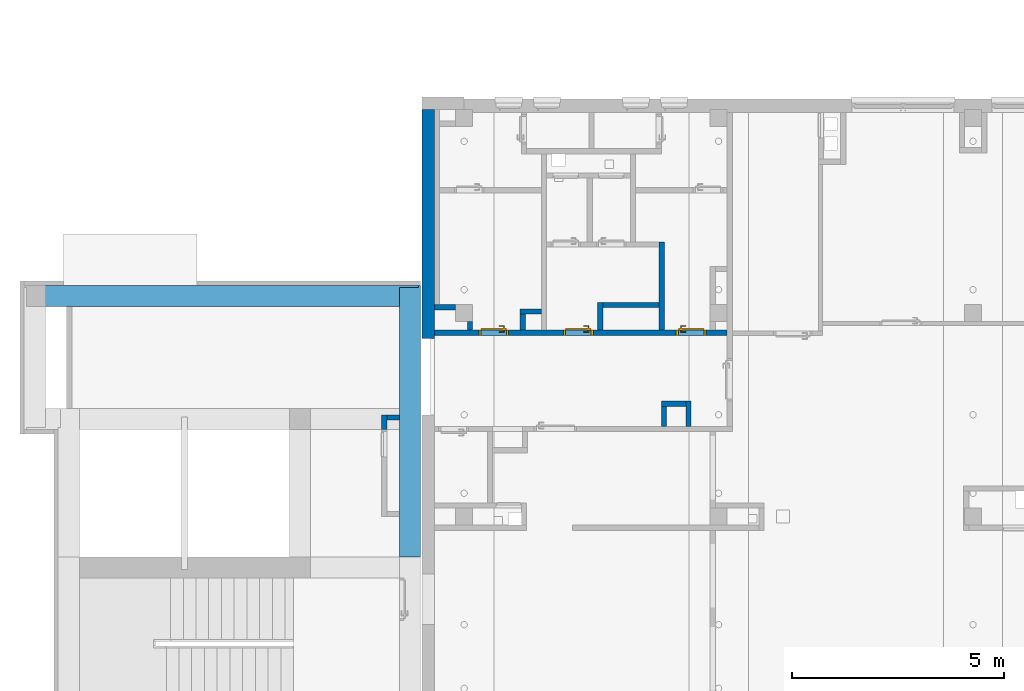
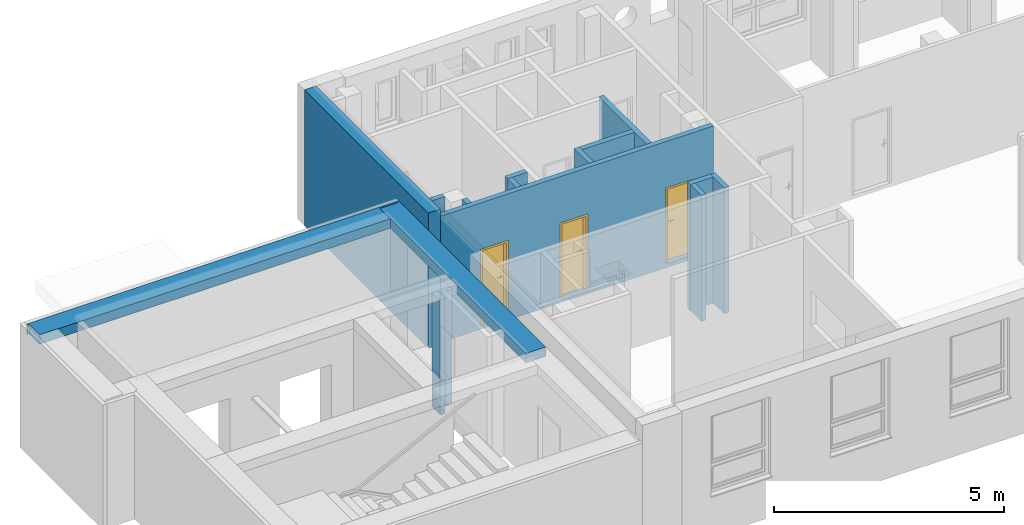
# One storey, part 9 of 50: 16 walls, 3 doors, 3 openings.
"""IFC4 building model written with IfcOpenShell, lengths in metres."""

from ifc_helpers import new_model, entity, si_unit, converted_unit, derived_unit, frame, frame_2d, origin, origin_with_axes, place, context, subcontext, project, spatial, polyline, rectangle, outline, extrude, closed_shell, open_shell, surface_model, source, transform, mapped, material, layer, layer_set, layer_usage, type_object, element, fill, save


model = new_model("IFC4")

# Units and contexts
model_context = context("Model", 3, precision=1e-05, world=origin())
body_context = subcontext(model_context, "Body", "Model", "MODEL_VIEW")
ifc_project = project(units=[si_unit("LENGTHUNIT", "METRE"), si_unit("AREAUNIT", "SQUARE_METRE"), si_unit("VOLUMEUNIT", "CUBIC_METRE"), si_unit("MASSUNIT", "GRAM", prefix="KILO"), converted_unit("PLANEANGLEUNIT", "DEGREE", entity("IfcPlaneAngleMeasure", 0.0174532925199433), si_unit("PLANEANGLEUNIT", "RADIAN"), dimensions=[0, 0, 0, 0, 0, 0, 0]), derived_unit("THERMALTRANSMITTANCEUNIT", [(si_unit("POWERUNIT", "WATT"), 1), (si_unit("THERMODYNAMICTEMPERATUREUNIT", "KELVIN"), -1), (si_unit("LENGTHUNIT", "METRE"), -2)]), derived_unit("VOLUMETRICFLOWRATEUNIT", [(si_unit("LENGTHUNIT", "METRE"), 3), (converted_unit("TIMEUNIT", "hour", entity("IfcTimeMeasure", 3600.0), si_unit("TIMEUNIT", "SECOND"), dimensions=[0, 0, 1, 0, 0, 0, 0]), -1), (si_unit("LENGTHUNIT", "METRE"), -1)])], contexts=[model_context])

# Site, building, storey
site_placement = place(None, origin())
site = spatial("IfcSite", under=ifc_project, at=site_placement, Name="3. ASŘ", CompositionType="ELEMENT")
building_placement = place(site_placement, origin())
building = spatial("IfcBuilding", under=site, at=building_placement, Name="Pavilon C", CompositionType="ELEMENT")
storey_placement = place(building_placement, frame((0.0, 0.0, 3.6)))
storey = spatial("IfcBuildingStorey", under=building, at=storey_placement, Name="Půdorys 2.NP", CompositionType="ELEMENT", Elevation=3.6)

# Walls
ifc_material_1 = material(Name="ZELEZOBETONOVÁ KCE")
ifc_layer_1 = layer(ifc_material_1, 0.3)
ifc_layer_set_1 = layer_set([ifc_layer_1])
ifc_layer_usage_1 = layer_usage(ifc_layer_set_1, "AXIS2", "POSITIVE", 0.0)
wall_1_placement = place(storey_placement, frame((-0.999999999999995, 15.0, -0.1), z_axis=(0.0, 0.0, 1.0), x_axis=(-1.8947806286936e-16, -1.0, 0.0)))
element("IfcWall", 1, at=wall_1_placement, inside=storey, material=ifc_layer_usage_1, Name="ZELEZOBETONOVÁ KCE", context=body_context, shape_type="SweptSolid", body=[
    extrude(rectangle(XDim=5.40000000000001, YDim=0.3, at=frame_2d((2.7, 0.15), x_axis=(1.0, 0.0))), origin_with_axes(), (0.0, 0.0, 1.0), 3.6),
])
ifc_material_2 = material(Name="ZDIVO Z CDm")
ifc_layer_2 = layer(ifc_material_2, 0.125)
ifc_layer_set_2 = layer_set([ifc_layer_2])
ifc_layer_usage_2 = layer_usage(ifc_layer_set_2, "AXIS2", "POSITIVE", 0.0)
wall_2_placement = place(storey_placement, frame((-0.199999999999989, 10.4, -0.1), z_axis=(0.0, 0.0, 1.0), x_axis=(-1.0, 0.0, 0.0)))
element("IfcWall", 2, at=wall_2_placement, inside=storey, material=ifc_layer_usage_2, Name="ZDIVO Z CDm", context=body_context, shape_type="SweptSolid", body=[
    extrude(rectangle(XDim=0.500000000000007, YDim=0.125, at=frame_2d((0.250000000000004, 0.0625), x_axis=(1.0, 0.0))), origin_with_axes(), (0.0, 0.0, 1.0), 3.35),
])

# Wall, openings, doors
ifc_material_3 = material(Name="ZDIVO Z CDm")
ifc_layer_3 = layer(ifc_material_3, 0.125)
ifc_layer_set_3 = layer_set([ifc_layer_3])
ifc_layer_usage_3 = layer_usage(ifc_layer_set_3, "AXIS2", "POSITIVE", 0.0)
wall_3_placement = place(storey_placement, frame((6.20000000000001, 9.8, -0.1), z_axis=(0.0, 0.0, 1.0), x_axis=(-1.0, 0.0, 0.0)))
wall_3 = element("IfcWall", 3, at=wall_3_placement, inside=storey, material=ifc_layer_usage_3, Name="ZDIVO Z CDm", context=body_context, shape_type="SweptSolid", body=[
    extrude(rectangle(XDim=6.90000000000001, YDim=0.125, at=frame_2d((3.45, 0.0625), x_axis=(1.0, 0.0))), origin_with_axes(), (0.0, 0.0, 1.0), 3.35),
])
opening_1_placement = place(wall_3_placement, frame((3.15500000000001, 0.0, 0.1), z_axis=(0.0, 1.0, 0.0), x_axis=(0.0, 0.0, 1.0)))
opening_1 = element("IfcOpeningElement", 4, at=opening_1_placement, cuts=wall_3, Name="Dveřní otvor", ObjectType="Opening", context=body_context, shape_type="SweptSolid", body=[
    extrude(outline(polyline([(0.0, 0.7), (2.02, 0.7), (2.02, 0.0), (0.0, 0.0), (0.0, 0.7)])), origin_with_axes(), (0.0, 0.0, 1.0), 0.125),
])
opening_2_placement = place(wall_3_placement, frame((0.499999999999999, 0.0, 0.1), z_axis=(0.0, 1.0, 0.0), x_axis=(0.0, 0.0, 1.0)))
opening_2 = element("IfcOpeningElement", 5, at=opening_2_placement, cuts=wall_3, Name="Dveřní otvor", ObjectType="Opening", context=body_context, shape_type="SweptSolid", body=[
    extrude(outline(polyline([(0.0, 0.7), (2.02, 0.7), (2.02, 0.0), (0.0, 0.0), (0.0, 0.7)])), origin_with_axes(), (0.0, 0.0, 1.0), 0.125),
])
opening_3_placement = place(wall_3_placement, frame((5.15000000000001, 0.0, 0.1), z_axis=(0.0, 1.0, 0.0), x_axis=(0.0, 0.0, 1.0)))
opening_3 = element("IfcOpeningElement", 6, at=opening_3_placement, cuts=wall_3, Name="Dveřní otvor", ObjectType="Opening", context=body_context, shape_type="SweptSolid", body=[
    extrude(outline(polyline([(0.0, 0.7), (2.02, 0.7), (2.02, 0.0), (0.0, 0.0), (0.0, 0.7)])), origin_with_axes(), (0.0, 0.0, 1.0), 0.125),
])
door_type_1 = type_object("IfcDoorType", Name="D101", OperationType="NOTDEFINED", ParameterTakesPrecedence=False, PredefinedType="DOOR")
shared_shape_1 = source(origin_with_axes(), body_context, "Body", "SurfaceModel", [
    surface_model("IfcShellBasedSurfaceModel", [(0.0, 0.125, 2.02), (0.0, 0.125, -7.65404249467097e-18), (0.05, 0.125, -7.65404249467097e-18), (0.05, 0.125, 2.02), (0.0, 0.0, 7.65404249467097e-18), (0.0, 2.41584530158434e-16, 2.02), (0.05, 2.41584530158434e-16, 2.02), (0.05, 0.0, 7.65404249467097e-18)], [closed_shell([[[0, 1, 2, 3]], [[4, 5, 6, 7]], [[1, 0, 5, 4]], [[2, 1, 4, 7]], [[3, 2, 7, 6]], [[0, 3, 6, 5]]], orient=[[False], [False], [False], [False], [False], [False]])]),
    surface_model("IfcShellBasedSurfaceModel", [(0.65, 0.125, 2.02), (0.65, 0.125, -7.65404249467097e-18), (0.7, 0.125, -7.65404249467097e-18), (0.7, 0.125, 2.02), (0.65, 0.0, 7.65404249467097e-18), (0.65, 2.41584530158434e-16, 2.02), (0.7, 2.41584530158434e-16, 2.02), (0.7, 0.0, 7.65404249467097e-18)], [closed_shell([[[0, 1, 2, 3]], [[4, 5, 6, 7]], [[1, 0, 5, 4]], [[2, 1, 4, 7]], [[3, 2, 7, 6]], [[0, 3, 6, 5]]], orient=[[False], [False], [False], [False], [False], [False]])]),
    surface_model("IfcShellBasedSurfaceModel", [(0.05, 0.125, 2.02), (0.05, 0.125, 1.97), (0.65, 0.125, 1.97), (0.65, 0.125, 2.02), (0.05, 2.41584530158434e-16, 1.97), (0.05, 2.41584530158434e-16, 2.02), (0.65, 2.41584530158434e-16, 2.02), (0.65, 2.41584530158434e-16, 1.97)], [closed_shell([[[0, 1, 2, 3]], [[4, 5, 6, 7]], [[1, 0, 5, 4]], [[2, 1, 4, 7]], [[3, 2, 7, 6]], [[0, 3, 6, 5]]], orient=[[False], [False], [False], [False], [False], [False]])]),
    surface_model("IfcShellBasedSurfaceModel", [(0.05, 0.165, 1.97), (0.05, 0.165, -1.25526296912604e-17), (0.65, 0.165, -1.25526296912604e-17), (0.65, 0.165, 1.97), (0.05, 0.125, -7.65404249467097e-18), (0.05, 0.125, 1.97), (0.65, 0.125, 1.97), (0.65, 0.125, -7.65404249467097e-18)], [closed_shell([[[0, 1, 2, 3]], [[4, 5, 6, 7]], [[1, 0, 5, 4]], [[2, 1, 4, 7]], [[3, 2, 7, 6]], [[0, 3, 6, 5]]], orient=[[False], [False], [False], [False], [False], [False]])]),
    surface_model("IfcShellBasedSurfaceModel", [(0.56, 0.125, 1.125), (0.56, 0.125, 0.91), (0.61, 0.125, 0.91), (0.61, 0.125, 1.125), (0.56, 0.115, 0.91), (0.56, 0.115, 1.125), (0.61, 0.115, 1.125), (0.61, 0.115, 0.91)], [closed_shell([[[0, 1, 2, 3]], [[4, 5, 6, 7]], [[1, 0, 5, 4]], [[2, 1, 4, 7]], [[3, 2, 7, 6]], [[0, 3, 6, 5]]], orient=[[False], [False], [False], [False], [False], [False]])]),
    surface_model("IfcShellBasedSurfaceModel", [(0.585, 0.115, 1.06), (0.58, 0.115, 1.05866025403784), (0.576339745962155, 0.115, 1.055), (0.575, 0.115, 1.05), (0.576339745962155, 0.115, 1.045), (0.58, 0.115, 1.04133974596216), (0.585, 0.115, 1.04), (0.59, 0.115, 1.04133974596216), (0.593660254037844, 0.115, 1.045), (0.595, 0.115, 1.05), (0.593660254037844, 0.115, 1.055), (0.59, 0.115, 1.05866025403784), (0.59, 0.0700000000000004, 1.05866025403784), (0.585, 0.0750000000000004, 1.06), (0.593660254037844, 0.066339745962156, 1.055), (0.595, 0.0650000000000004, 1.05), (0.593660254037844, 0.066339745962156, 1.045), (0.59, 0.0700000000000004, 1.04133974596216), (0.585, 0.0750000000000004, 1.04), (0.58, 0.0800000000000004, 1.04133974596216), (0.576339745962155, 0.0836602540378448, 1.045), (0.575, 0.0850000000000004, 1.05), (0.576339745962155, 0.0836602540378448, 1.055), (0.58, 0.0800000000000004, 1.05866025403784), (0.47, 0.0700000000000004, 1.05866025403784), (0.47, 0.0750000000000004, 1.06), (0.47, 0.066339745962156, 1.055), (0.47, 0.0650000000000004, 1.05), (0.47, 0.066339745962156, 1.045), (0.47, 0.0700000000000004, 1.04133974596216), (0.47, 0.0750000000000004, 1.04), (0.47, 0.0800000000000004, 1.04133974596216), (0.47, 0.0836602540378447, 1.045), (0.47, 0.0850000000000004, 1.05), (0.47, 0.0836602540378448, 1.055), (0.47, 0.0800000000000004, 1.05866025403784)], [open_shell([[[0, 1, 2, 3, 4, 5, 6, 7, 8, 9, 10, 11]], [[0, 11, 12, 13]], [[11, 10, 14, 12]], [[10, 9, 15, 14]], [[9, 8, 16, 15]], [[8, 7, 17, 16]], [[7, 6, 18, 17]], [[6, 5, 19, 18]], [[5, 4, 20, 19]], [[4, 3, 21, 20]], [[3, 2, 22, 21]], [[2, 1, 23, 22]], [[1, 0, 13, 23]], [[13, 12, 24, 25]], [[12, 14, 26, 24]], [[14, 15, 27, 26]], [[15, 16, 28, 27]], [[16, 17, 29, 28]], [[17, 18, 30, 29]], [[18, 19, 31, 30]], [[19, 20, 32, 31]], [[20, 21, 33, 32]], [[21, 22, 34, 33]], [[22, 23, 35, 34]], [[23, 13, 25, 35]]], orient=[[False], [False], [False], [False], [False], [False], [False], [False], [False], [False], [False], [False], [False], [False], [False], [False], [False], [False], [False], [False], [False], [False], [False], [False], [False]])]),
    surface_model("IfcShellBasedSurfaceModel", [(0.56, 0.165, 1.125), (0.61, 0.165, 1.125), (0.61, 0.165, 0.91), (0.56, 0.165, 0.91), (0.56, 0.175, 0.91), (0.61, 0.175, 0.91), (0.61, 0.175, 1.125), (0.56, 0.175, 1.125)], [closed_shell([[[0, 1, 2, 3]], [[4, 5, 6, 7]], [[3, 4, 7, 0]], [[2, 5, 4, 3]], [[1, 6, 5, 2]], [[0, 7, 6, 1]]], orient=[[False], [False], [False], [False], [False], [False]])]),
    surface_model("IfcShellBasedSurfaceModel", [(0.585, 0.175, 1.06), (0.59, 0.175, 1.05866025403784), (0.593660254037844, 0.175, 1.055), (0.595, 0.175, 1.05), (0.593660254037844, 0.175, 1.045), (0.59, 0.175, 1.04133974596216), (0.585, 0.175, 1.04), (0.58, 0.175, 1.04133974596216), (0.576339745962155, 0.175, 1.045), (0.575, 0.175, 1.05), (0.576339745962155, 0.175, 1.055), (0.58, 0.175, 1.05866025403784), (0.585, 0.215, 1.06), (0.59, 0.22, 1.05866025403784), (0.593660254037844, 0.223660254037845, 1.055), (0.595, 0.225, 1.05), (0.593660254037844, 0.223660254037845, 1.045), (0.59, 0.22, 1.04133974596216), (0.585, 0.215, 1.04), (0.58, 0.21, 1.04133974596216), (0.576339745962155, 0.206339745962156, 1.045), (0.575, 0.205, 1.05), (0.576339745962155, 0.206339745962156, 1.055), (0.58, 0.21, 1.05866025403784), (0.47, 0.215, 1.06), (0.47, 0.22, 1.05866025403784), (0.47, 0.223660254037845, 1.055), (0.47, 0.225, 1.05), (0.47, 0.223660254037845, 1.045), (0.47, 0.22, 1.04133974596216), (0.47, 0.215, 1.04), (0.47, 0.21, 1.04133974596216), (0.47, 0.206339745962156, 1.045), (0.47, 0.205, 1.05), (0.47, 0.206339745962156, 1.055), (0.47, 0.21, 1.05866025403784)], [open_shell([[[0, 1, 2, 3, 4, 5, 6, 7, 8, 9, 10, 11]], [[0, 12, 13, 1]], [[1, 13, 14, 2]], [[2, 14, 15, 3]], [[3, 15, 16, 4]], [[4, 16, 17, 5]], [[5, 17, 18, 6]], [[6, 18, 19, 7]], [[7, 19, 20, 8]], [[8, 20, 21, 9]], [[9, 21, 22, 10]], [[10, 22, 23, 11]], [[11, 23, 12, 0]], [[12, 24, 25, 13]], [[13, 25, 26, 14]], [[14, 26, 27, 15]], [[15, 27, 28, 16]], [[16, 28, 29, 17]], [[17, 29, 30, 18]], [[18, 30, 31, 19]], [[19, 31, 32, 20]], [[20, 32, 33, 21]], [[21, 33, 34, 22]], [[22, 34, 35, 23]], [[23, 35, 24, 12]]], orient=[[False], [False], [False], [False], [False], [False], [False], [False], [False], [False], [False], [False], [False], [False], [False], [False], [False], [False], [False], [False], [False], [False], [False], [False], [False]])]),
])
door_1_placement = place(opening_1_placement, frame((0.0, 0.7, 0.125), z_axis=(1.0, 0.0, 0.0), x_axis=(0.0, -1.0, 2.44929359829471e-16)))
door_1 = element("IfcDoor", 7, at=door_1_placement, inside=storey, type_object=door_type_1, Name="D101", OverallHeight=2.02, OverallWidth=0.7, context=body_context, shape_type="MappedRepresentation", body=[
    mapped(shared_shape_1, transform((0.0, 0.0, 0.0), x_axis=(1.0, 0.0, 0.0), y_axis=(0.0, 1.0, 0.0), z_axis=(0.0, 0.0, 1.0), scale=1.0)),
])
fill(opening_1, door_1)
door_type_2 = type_object("IfcDoorType", Name="D101", OperationType="NOTDEFINED", ParameterTakesPrecedence=False, PredefinedType="DOOR")
door_2_placement = place(opening_3_placement, frame((0.0, 0.7, 0.125), z_axis=(1.0, 0.0, 0.0), x_axis=(0.0, -1.0, 2.44929359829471e-16)))
door_2 = element("IfcDoor", 8, at=door_2_placement, inside=storey, type_object=door_type_2, Name="D101", OverallHeight=2.02, OverallWidth=0.7, context=body_context, shape_type="MappedRepresentation", body=[
    mapped(shared_shape_1, transform((0.0, 0.0, 0.0), x_axis=(1.0, 0.0, 0.0), y_axis=(0.0, 1.0, 0.0), z_axis=(0.0, 0.0, 1.0), scale=1.0)),
])
fill(opening_3, door_2)
door_type_3 = type_object("IfcDoorType", Name="D101", OperationType="NOTDEFINED", ParameterTakesPrecedence=False, PredefinedType="DOOR")
shared_shape_2 = source(origin_with_axes(), body_context, "Body", "SurfaceModel", [
    surface_model("IfcShellBasedSurfaceModel", [(0.0, 0.125, 2.02), (0.0, 0.125, -7.65404249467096e-18), (0.05, 0.125, -7.65404249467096e-18), (0.05, 0.125, 2.02), (0.0, 0.0, 7.65404249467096e-18), (0.0, 2.41584530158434e-16, 2.02), (0.05, 2.41584530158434e-16, 2.02), (0.05, 0.0, 7.65404249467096e-18)], [closed_shell([[[0, 1, 2, 3]], [[4, 5, 6, 7]], [[1, 0, 5, 4]], [[2, 1, 4, 7]], [[3, 2, 7, 6]], [[0, 3, 6, 5]]], orient=[[False], [False], [False], [False], [False], [False]])]),
    surface_model("IfcShellBasedSurfaceModel", [(0.65, 0.125, 2.02), (0.65, 0.125, -7.65404249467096e-18), (0.7, 0.125, -7.65404249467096e-18), (0.7, 0.125, 2.02), (0.65, 0.0, 7.65404249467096e-18), (0.65, 2.41584530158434e-16, 2.02), (0.7, 2.41584530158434e-16, 2.02), (0.7, 0.0, 7.65404249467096e-18)], [closed_shell([[[0, 1, 2, 3]], [[4, 5, 6, 7]], [[1, 0, 5, 4]], [[2, 1, 4, 7]], [[3, 2, 7, 6]], [[0, 3, 6, 5]]], orient=[[False], [False], [False], [False], [False], [False]])]),
    surface_model("IfcShellBasedSurfaceModel", [(0.05, 0.125, 2.02), (0.05, 0.125, 1.97), (0.65, 0.125, 1.97), (0.65, 0.125, 2.02), (0.05, 2.41584530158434e-16, 1.97), (0.05, 2.41584530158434e-16, 2.02), (0.65, 2.41584530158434e-16, 2.02), (0.65, 2.41584530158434e-16, 1.97)], [closed_shell([[[0, 1, 2, 3]], [[4, 5, 6, 7]], [[1, 0, 5, 4]], [[2, 1, 4, 7]], [[3, 2, 7, 6]], [[0, 3, 6, 5]]], orient=[[False], [False], [False], [False], [False], [False]])]),
    surface_model("IfcShellBasedSurfaceModel", [(0.05, 0.165, 1.97), (0.05, 0.165, -1.25526296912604e-17), (0.65, 0.165, -1.25526296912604e-17), (0.65, 0.165, 1.97), (0.05, 0.125, -7.65404249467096e-18), (0.05, 0.125, 1.97), (0.65, 0.125, 1.97), (0.65, 0.125, -7.65404249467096e-18)], [closed_shell([[[0, 1, 2, 3]], [[4, 5, 6, 7]], [[1, 0, 5, 4]], [[2, 1, 4, 7]], [[3, 2, 7, 6]], [[0, 3, 6, 5]]], orient=[[False], [False], [False], [False], [False], [False]])]),
    surface_model("IfcShellBasedSurfaceModel", [(0.56, 0.125, 1.125), (0.56, 0.125, 0.91), (0.61, 0.125, 0.91), (0.61, 0.125, 1.125), (0.56, 0.115, 0.91), (0.56, 0.115, 1.125), (0.61, 0.115, 1.125), (0.61, 0.115, 0.91)], [closed_shell([[[0, 1, 2, 3]], [[4, 5, 6, 7]], [[1, 0, 5, 4]], [[2, 1, 4, 7]], [[3, 2, 7, 6]], [[0, 3, 6, 5]]], orient=[[False], [False], [False], [False], [False], [False]])]),
    surface_model("IfcShellBasedSurfaceModel", [(0.585, 0.115, 1.06), (0.58, 0.115, 1.05866025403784), (0.576339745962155, 0.115, 1.055), (0.575, 0.115, 1.05), (0.576339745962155, 0.115, 1.045), (0.58, 0.115, 1.04133974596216), (0.585, 0.115, 1.04), (0.59, 0.115, 1.04133974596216), (0.593660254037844, 0.115, 1.045), (0.595, 0.115, 1.05), (0.593660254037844, 0.115, 1.055), (0.59, 0.115, 1.05866025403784), (0.59, 0.0700000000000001, 1.05866025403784), (0.585, 0.0750000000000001, 1.06), (0.593660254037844, 0.0663397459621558, 1.055), (0.595, 0.0650000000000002, 1.05), (0.593660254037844, 0.0663397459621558, 1.045), (0.59, 0.0700000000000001, 1.04133974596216), (0.585, 0.0750000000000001, 1.04), (0.58, 0.0800000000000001, 1.04133974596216), (0.576339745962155, 0.0836602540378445, 1.045), (0.575, 0.0850000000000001, 1.05), (0.576339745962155, 0.0836602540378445, 1.055), (0.58, 0.0800000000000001, 1.05866025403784), (0.47, 0.0700000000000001, 1.05866025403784), (0.47, 0.0750000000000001, 1.06), (0.47, 0.0663397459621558, 1.055), (0.47, 0.0650000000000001, 1.05), (0.47, 0.0663397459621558, 1.045), (0.47, 0.0700000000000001, 1.04133974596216), (0.47, 0.0750000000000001, 1.04), (0.47, 0.0800000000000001, 1.04133974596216), (0.47, 0.0836602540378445, 1.045), (0.47, 0.0850000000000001, 1.05), (0.47, 0.0836602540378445, 1.055), (0.47, 0.0800000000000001, 1.05866025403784)], [open_shell([[[0, 1, 2, 3, 4, 5, 6, 7, 8, 9, 10, 11]], [[0, 11, 12, 13]], [[11, 10, 14, 12]], [[10, 9, 15, 14]], [[9, 8, 16, 15]], [[8, 7, 17, 16]], [[7, 6, 18, 17]], [[6, 5, 19, 18]], [[5, 4, 20, 19]], [[4, 3, 21, 20]], [[3, 2, 22, 21]], [[2, 1, 23, 22]], [[1, 0, 13, 23]], [[13, 12, 24, 25]], [[12, 14, 26, 24]], [[14, 15, 27, 26]], [[15, 16, 28, 27]], [[16, 17, 29, 28]], [[17, 18, 30, 29]], [[18, 19, 31, 30]], [[19, 20, 32, 31]], [[20, 21, 33, 32]], [[21, 22, 34, 33]], [[22, 23, 35, 34]], [[23, 13, 25, 35]]], orient=[[False], [False], [False], [False], [False], [False], [False], [False], [False], [False], [False], [False], [False], [False], [False], [False], [False], [False], [False], [False], [False], [False], [False], [False], [False]])]),
    surface_model("IfcShellBasedSurfaceModel", [(0.56, 0.165, 1.125), (0.61, 0.165, 1.125), (0.61, 0.165, 0.91), (0.56, 0.165, 0.91), (0.56, 0.175, 0.91), (0.61, 0.175, 0.91), (0.61, 0.175, 1.125), (0.56, 0.175, 1.125)], [closed_shell([[[0, 1, 2, 3]], [[4, 5, 6, 7]], [[3, 4, 7, 0]], [[2, 5, 4, 3]], [[1, 6, 5, 2]], [[0, 7, 6, 1]]], orient=[[False], [False], [False], [False], [False], [False]])]),
    surface_model("IfcShellBasedSurfaceModel", [(0.585, 0.175, 1.06), (0.59, 0.175, 1.05866025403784), (0.593660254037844, 0.175, 1.055), (0.595, 0.175, 1.05), (0.593660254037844, 0.175, 1.045), (0.59, 0.175, 1.04133974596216), (0.585, 0.175, 1.04), (0.58, 0.175, 1.04133974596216), (0.576339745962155, 0.175, 1.045), (0.575, 0.175, 1.05), (0.576339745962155, 0.175, 1.055), (0.58, 0.175, 1.05866025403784), (0.585, 0.215, 1.06), (0.59, 0.22, 1.05866025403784), (0.593660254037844, 0.223660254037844, 1.055), (0.595, 0.225, 1.05), (0.593660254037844, 0.223660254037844, 1.045), (0.59, 0.22, 1.04133974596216), (0.585, 0.215, 1.04), (0.58, 0.21, 1.04133974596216), (0.576339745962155, 0.206339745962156, 1.045), (0.575, 0.205, 1.05), (0.576339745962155, 0.206339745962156, 1.055), (0.58, 0.21, 1.05866025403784), (0.47, 0.215, 1.06), (0.47, 0.22, 1.05866025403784), (0.47, 0.223660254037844, 1.055), (0.47, 0.225, 1.05), (0.47, 0.223660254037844, 1.045), (0.47, 0.22, 1.04133974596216), (0.47, 0.215, 1.04), (0.47, 0.21, 1.04133974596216), (0.47, 0.206339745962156, 1.045), (0.47, 0.205, 1.05), (0.47, 0.206339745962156, 1.055), (0.47, 0.21, 1.05866025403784)], [open_shell([[[0, 1, 2, 3, 4, 5, 6, 7, 8, 9, 10, 11]], [[0, 12, 13, 1]], [[1, 13, 14, 2]], [[2, 14, 15, 3]], [[3, 15, 16, 4]], [[4, 16, 17, 5]], [[5, 17, 18, 6]], [[6, 18, 19, 7]], [[7, 19, 20, 8]], [[8, 20, 21, 9]], [[9, 21, 22, 10]], [[10, 22, 23, 11]], [[11, 23, 12, 0]], [[12, 24, 25, 13]], [[13, 25, 26, 14]], [[14, 26, 27, 15]], [[15, 27, 28, 16]], [[16, 28, 29, 17]], [[17, 29, 30, 18]], [[18, 30, 31, 19]], [[19, 31, 32, 20]], [[20, 32, 33, 21]], [[21, 33, 34, 22]], [[22, 34, 35, 23]], [[23, 35, 24, 12]]], orient=[[False], [False], [False], [False], [False], [False], [False], [False], [False], [False], [False], [False], [False], [False], [False], [False], [False], [False], [False], [False], [False], [False], [False], [False], [False]])]),
])
door_3_placement = place(opening_2_placement, frame((0.0, 0.0, 0.125), z_axis=(1.0, 0.0, 0.0), x_axis=(0.0, 1.0, -2.44929359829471e-16)))
door_3 = element("IfcDoor", 9, at=door_3_placement, inside=storey, type_object=door_type_3, Name="D101", OverallHeight=2.02, OverallWidth=0.7, context=body_context, shape_type="MappedRepresentation", body=[
    mapped(shared_shape_2, transform((0.0, 0.0, 0.0), x_axis=(1.0, 0.0, 0.0), y_axis=(0.0, -1.0, 0.0), z_axis=(0.0, 0.0, 1.0), scale=1.0)),
])
fill(opening_2, door_3)

# Walls
ifc_material_4 = material(Name="ZDIVO Z CDm")
ifc_layer_4 = layer(ifc_material_4, 0.125)
ifc_layer_set_4 = layer_set([ifc_layer_4])
ifc_layer_usage_4 = layer_usage(ifc_layer_set_4, "AXIS2", "POSITIVE", 0.0)
wall_4_placement = place(storey_placement, frame((0.200000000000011, 9.8, -0.1), z_axis=(0.0, 0.0, 1.0), x_axis=(1.4210854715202e-16, 1.0, 0.0)))
element("IfcWall", 10, at=wall_4_placement, inside=storey, material=ifc_layer_usage_4, Name="ZDIVO Z CDm", context=body_context, shape_type="SweptSolid", body=[
    extrude(rectangle(XDim=0.2, YDim=0.125, at=frame_2d((0.1, 0.0625), x_axis=(1.0, 0.0))), origin_with_axes(), (0.0, 0.0, 1.0), 3.35),
])
ifc_material_5 = material(Name="ZDIVO Z CDm")
ifc_layer_5 = layer(ifc_material_5, 0.125)
ifc_layer_set_5 = layer_set([ifc_layer_5])
ifc_layer_usage_5 = layer_usage(ifc_layer_set_5, "AXIS2", "POSITIVE", 0.0)
wall_5_placement = place(storey_placement, frame((4.59500000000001, 11.88, -0.1), z_axis=(0.0, 0.0, 1.0), x_axis=(0.0, -1.0, 0.0)))
element("IfcWall", 11, at=wall_5_placement, inside=storey, material=ifc_layer_usage_5, Name="ZDIVO Z CDm", context=body_context, shape_type="SweptSolid", body=[
    extrude(rectangle(XDim=2.08, YDim=0.125, at=frame_2d((1.04, 0.0625), x_axis=(1.0, 0.0))), origin_with_axes(), (0.0, 0.0, 1.0), 3.35),
])
ifc_material_6 = material(Name="ZDIVO Z CDm")
ifc_layer_6 = layer(ifc_material_6, 0.125)
ifc_layer_set_6 = layer_set([ifc_layer_6])
ifc_layer_usage_6 = layer_usage(ifc_layer_set_6, "AXIS2", "POSITIVE", 0.0)
wall_6_placement = place(storey_placement, frame((3.145, 10.45, -0.1), z_axis=(0.0, 0.0, 1.0), x_axis=(0.0, -1.0, 0.0)))
element("IfcWall", 12, at=wall_6_placement, inside=storey, material=ifc_layer_usage_6, Name="ZDIVO Z CDm", context=body_context, shape_type="SweptSolid", body=[
    extrude(rectangle(XDim=0.65, YDim=0.125, at=frame_2d((0.325, 0.0625), x_axis=(1.0, 0.0))), origin_with_axes(), (0.0, 0.0, 1.0), 3.35),
])
ifc_material_7 = material(Name="ZDIVO Z CDm")
ifc_layer_7 = layer(ifc_material_7, 0.125)
ifc_layer_set_7 = layer_set([ifc_layer_7])
ifc_layer_usage_7 = layer_usage(ifc_layer_set_7, "AXIS2", "POSITIVE", 0.0)
wall_7_placement = place(storey_placement, frame((4.59500000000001, 10.45, -0.1), z_axis=(0.0, 0.0, 1.0), x_axis=(-1.0, 0.0, 0.0)))
element("IfcWall", 13, at=wall_7_placement, inside=storey, material=ifc_layer_usage_7, Name="ZDIVO Z CDm", context=body_context, shape_type="SweptSolid", body=[
    extrude(rectangle(XDim=1.325, YDim=0.125, at=frame_2d((0.6625, 0.0625), x_axis=(1.0, 0.0))), origin_with_axes(), (0.0, 0.0, 1.0), 3.35),
])
ifc_material_8 = material(Name="ZDIVO Z CDm")
ifc_layer_8 = layer(ifc_material_8, 0.125)
ifc_layer_set_8 = layer_set([ifc_layer_8])
ifc_layer_usage_8 = layer_usage(ifc_layer_set_8, "AXIS2", "POSITIVE", 0.0)
wall_8_placement = place(storey_placement, frame((1.82, 10.3, -0.1), z_axis=(0.0, 0.0, 1.0), x_axis=(-1.0, 0.0, 0.0)))
element("IfcWall", 14, at=wall_8_placement, inside=storey, material=ifc_layer_usage_8, Name="ZDIVO Z CDm", context=body_context, shape_type="SweptSolid", body=[
    extrude(rectangle(XDim=0.5, YDim=0.125, at=frame_2d((0.25, 0.0625), x_axis=(1.0, 0.0))), origin_with_axes(), (0.0, 0.0, 1.0), 3.35),
])
ifc_material_9 = material(Name="ZDIVO Z CDm")
ifc_layer_9 = layer(ifc_material_9, 0.125)
ifc_layer_set_9 = layer_set([ifc_layer_9])
ifc_layer_usage_9 = layer_usage(ifc_layer_set_9, "AXIS2", "POSITIVE", 0.0)
wall_9_placement = place(storey_placement, frame((1.32, 10.175, -0.1), z_axis=(0.0, 0.0, 1.0), x_axis=(-6.06329801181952e-16, -1.0, 0.0)))
element("IfcWall", 15, at=wall_9_placement, inside=storey, material=ifc_layer_usage_9, Name="ZDIVO Z CDm", context=body_context, shape_type="SweptSolid", body=[
    extrude(rectangle(XDim=0.375, YDim=0.125, at=frame_2d((0.1875, 0.0625), x_axis=(1.0, 0.0))), origin_with_axes(), (0.0, 0.0, 1.0), 3.35),
])
ifc_material_10 = material(Name="ZDIVO Z CDm")
ifc_layer_10 = layer(ifc_material_10, 0.125)
ifc_layer_set_10 = layer_set([ifc_layer_10])
ifc_layer_usage_10 = layer_usage(ifc_layer_set_10, "AXIS2", "POSITIVE", 0.0)
wall_10_placement = place(storey_placement, frame((-1.94999999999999, 7.79999999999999, -0.22), z_axis=(0.0, 0.0, 1.0), x_axis=(0.0, -1.0, 0.0)))
element("IfcWall", 16, at=wall_10_placement, inside=storey, material=ifc_layer_usage_10, Name="ZDIVO Z CDm", context=body_context, shape_type="SweptSolid", body=[
    extrude(rectangle(XDim=0.34999999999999, YDim=0.125, at=frame_2d((0.174999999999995, 0.0625), x_axis=(1.0, 0.0))), origin_with_axes(), (0.0, 0.0, 1.0), 3.05),
])
ifc_material_11 = material(Name="ZDIVO Z CDm")
ifc_layer_11 = layer(ifc_material_11, 0.125)
ifc_layer_set_11 = layer_set([ifc_layer_11])
ifc_layer_usage_11 = layer_usage(ifc_layer_set_11, "AXIS2", "POSITIVE", 0.0)
wall_11_placement = place(storey_placement, frame((-1.52499999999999, 7.79999999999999, -0.22), z_axis=(0.0, 0.0, 1.0), x_axis=(-1.0, 0.0, 0.0)))
element("IfcWall", 17, at=wall_11_placement, inside=storey, material=ifc_layer_usage_11, Name="ZDIVO Z CDm", context=body_context, shape_type="SweptSolid", body=[
    extrude(rectangle(XDim=0.299999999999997, YDim=0.125, at=frame_2d((0.149999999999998, 0.0625), x_axis=(1.0, 0.0))), origin_with_axes(), (0.0, 0.0, 1.0), 3.05),
])
ifc_material_12 = material(Name="ZDIVO Z CDm")
ifc_layer_12 = layer(ifc_material_12, 0.125)
ifc_layer_set_12 = layer_set([ifc_layer_12])
ifc_layer_usage_12 = layer_usage(ifc_layer_set_12, "AXIS2", "POSITIVE", 0.0)
wall_12_placement = place(storey_placement, frame((5.35000000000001, 7.525, -0.1), z_axis=(0.0, 0.0, 1.0), x_axis=(0.0, 1.0, 0.0)))
element("IfcWall", 18, at=wall_12_placement, inside=storey, material=ifc_layer_usage_12, Name="ZDIVO Z CDm", context=body_context, shape_type="SweptSolid", body=[
    extrude(rectangle(XDim=0.600000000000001, YDim=0.125, at=frame_2d((0.3, 0.0625), x_axis=(1.0, 0.0))), origin_with_axes(), (0.0, 0.0, 1.0), 3.35),
])
ifc_material_13 = material(Name="ZDIVO Z CDm")
ifc_layer_13 = layer(ifc_material_13, 0.125)
ifc_layer_set_13 = layer_set([ifc_layer_13])
ifc_layer_usage_13 = layer_usage(ifc_layer_set_13, "AXIS2", "POSITIVE", 0.0)
wall_13_placement = place(storey_placement, frame((5.22500000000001, 8.12500000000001, -0.1), z_axis=(0.0, 0.0, 1.0), x_axis=(-1.0, 0.0, 0.0)))
element("IfcWall", 19, at=wall_13_placement, inside=storey, material=ifc_layer_usage_13, Name="ZDIVO Z CDm", context=body_context, shape_type="SweptSolid", body=[
    extrude(rectangle(XDim=0.575, YDim=0.125, at=frame_2d((0.2875, 0.0625), x_axis=(1.0, 0.0))), origin_with_axes(), (0.0, 0.0, 1.0), 3.35),
])
ifc_material_14 = material(Name="ZDIVO Z CDm")
ifc_layer_14 = layer(ifc_material_14, 0.125)
ifc_layer_set_14 = layer_set([ifc_layer_14])
ifc_layer_usage_14 = layer_usage(ifc_layer_set_14, "AXIS2", "POSITIVE", 0.0)
wall_14_placement = place(storey_placement, frame((4.65000000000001, 8.00000000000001, -0.1), z_axis=(0.0, 0.0, 1.0), x_axis=(0.0, -1.0, 0.0)))
element("IfcWall", 20, at=wall_14_placement, inside=storey, material=ifc_layer_usage_14, Name="ZDIVO Z CDm", context=body_context, shape_type="SweptSolid", body=[
    extrude(rectangle(XDim=0.475, YDim=0.125, at=frame_2d((0.2375, 0.0625), x_axis=(1.0, 0.0))), origin_with_axes(), (0.0, 0.0, 1.0), 3.35),
])
ifc_material_15 = material(Name="ZELEZOBETONOVÁ KCE")
ifc_layer_15 = layer(ifc_material_15, 0.45)
ifc_material_16 = material(Name="LIGNOPOR")
ifc_layer_16 = layer(ifc_material_16, 0.05)
ifc_layer_set_15 = layer_set([ifc_layer_15, ifc_layer_16])
ifc_layer_usage_15 = layer_usage(ifc_layer_set_15, "AXIS2", "POSITIVE", 0.0)
wall_15_placement = place(storey_placement, frame((-10.325, 10.35, 2.83), z_axis=(0.0, 0.0, 1.0), x_axis=(1.0, 8.26813365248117e-16, 0.0)))
element("IfcWall", 21, at=wall_15_placement, inside=storey, material=ifc_layer_usage_15, context=body_context, shape_type="SweptSolid", body=[
    extrude(outline(polyline([(0.05, -4.13406682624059e-17), (8.84999999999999, -4.13406682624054e-17), (8.84999999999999, 0.45), (9.29999999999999, 0.45), (9.29999999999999, 0.5), (4.13406682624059e-16, 0.5), (3.72066014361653e-16, 0.45), (0.0500000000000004, 0.45), (0.05, -4.13406682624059e-17)])), frame((-0.05, 4.13406682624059e-17, 0.0), z_axis=(0.0, 0.0, 1.0), x_axis=(1.0, 0.0, 0.0)), (0.0, 0.0, 1.0), 0.25),
])
ifc_material_17 = material(Name="ZELEZOBETONOVÁ KCE")
ifc_layer_17 = layer(ifc_material_17, 0.45)
ifc_material_18 = material(Name="LIGNOPOR")
ifc_layer_18 = layer(ifc_material_18, 0.05)
ifc_layer_set_16 = layer_set([ifc_layer_17, ifc_layer_18])
ifc_layer_usage_16 = layer_usage(ifc_layer_set_16, "AXIS2", "POSITIVE", 0.0)
wall_16_placement = place(storey_placement, frame((-1.52499999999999, 10.8, 2.83), z_axis=(0.0, 0.0, 1.0), x_axis=(0.0, -1.0, 0.0)))
element("IfcWall", 22, at=wall_16_placement, inside=storey, material=ifc_layer_usage_16, context=body_context, shape_type="SweptSolid", body=[
    extrude(outline(polyline([(-6.40000000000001, 0.5), (-6.40000000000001, 0.45), (-6.35000000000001, 0.45), (-6.35000000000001, 0.0), (0.0, 0.0), (0.0, 0.5), (-6.40000000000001, 0.5)])), frame((6.35000000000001, 0.0, 0.0), z_axis=(0.0, 0.0, 1.0), x_axis=(1.0, 0.0, 0.0)), (0.0, 0.0, 1.0), 0.25),
])

save(model, "model.ifc")
